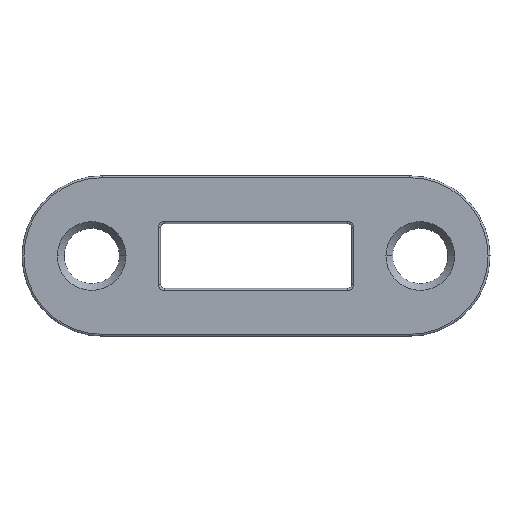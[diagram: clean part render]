
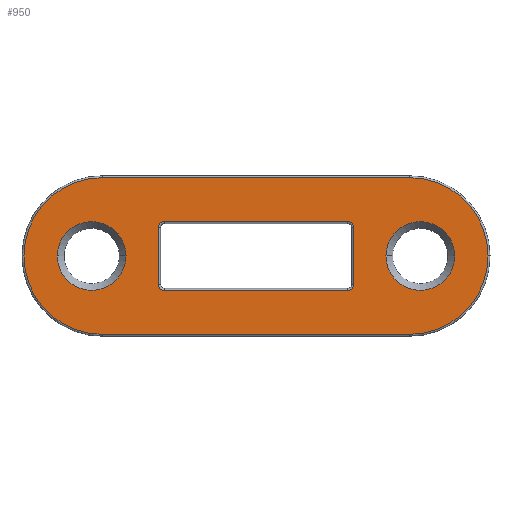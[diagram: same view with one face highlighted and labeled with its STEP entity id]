
A CAD part, top view. The second image highlights one B-rep face of the part: STEP entity #950.
In plain terms, the highlighted planar face has unit normal (0, 0, 1).
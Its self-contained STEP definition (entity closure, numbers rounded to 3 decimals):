
#14 = CARTESIAN_POINT ( 'NONE',  ( 3.119, 10.5, 2. ) ) ;
#20 = EDGE_CURVE ( 'NONE', #353, #801, #155, .T. ) ;
#33 = CARTESIAN_POINT ( 'NONE',  ( 50.5, 10.5, 2. ) ) ;
#34 = ORIENTED_EDGE ( 'NONE', *, *, #460, .T. ) ;
#40 = CARTESIAN_POINT ( 'NONE',  ( 0., 20.75, 2. ) ) ;
#44 = AXIS2_PLACEMENT_3D ( 'NONE', #68, #314, #233 ) ;
#53 = CARTESIAN_POINT ( 'NONE',  ( 40.25, 20.75, 2. ) ) ;
#67 = VERTEX_POINT ( 'NONE', #14 ) ;
#68 = CARTESIAN_POINT ( 'NONE',  ( -1.376, 10.5, 2. ) ) ;
#70 = DIRECTION ( 'NONE',  ( 0., 0., -1. ) ) ;
#82 = VERTEX_POINT ( 'NONE', #509 ) ;
#84 = FACE_OUTER_BOUND ( 'NONE', #689, .T. ) ;
#89 = VECTOR ( 'NONE', #315, 1000. ) ;
#94 = ORIENTED_EDGE ( 'NONE', *, *, #1041, .T. ) ;
#95 = CARTESIAN_POINT ( 'NONE',  ( 41.624, 10.5, 2. ) ) ;
#96 = VECTOR ( 'NONE', #786, 1000. ) ;
#119 = VERTEX_POINT ( 'NONE', #424 ) ;
#122 = VERTEX_POINT ( 'NONE', #439 ) ;
#128 = CARTESIAN_POINT ( 'NONE',  ( 37.128, 10.5, 2. ) ) ;
#142 = CARTESIAN_POINT ( 'NONE',  ( 40.25, 10.5, 2. ) ) ;
#155 = CIRCLE ( 'NONE', #827, 10.25 ) ;
#161 = LINE ( 'NONE', #501, #515 ) ;
#166 = FACE_BOUND ( 'NONE', #914, .T. ) ;
#169 = FACE_BOUND ( 'NONE', #367, .T. ) ;
#174 = VERTEX_POINT ( 'NONE', #776 ) ;
#192 = AXIS2_PLACEMENT_3D ( 'NONE', #832, #991, #1003 ) ;
#194 = CARTESIAN_POINT ( 'NONE',  ( 40.25, 0.25, 2. ) ) ;
#201 = LINE ( 'NONE', #879, #748 ) ;
#212 = ORIENTED_EDGE ( 'NONE', *, *, #391, .T. ) ;
#214 = DIRECTION ( 'NONE',  ( 1., 0., 0. ) ) ;
#233 = DIRECTION ( 'NONE',  ( 1., 0., 0. ) ) ;
#235 = DIRECTION ( 'NONE',  ( 1., 0., 0. ) ) ;
#240 = CARTESIAN_POINT ( 'NONE',  ( 32.13, 14.25, 2. ) ) ;
#252 = VERTEX_POINT ( 'NONE', #40 ) ;
#258 = DIRECTION ( 'NONE',  ( 0., 0., 1. ) ) ;
#265 = DIRECTION ( 'NONE',  ( 1., 0., 0. ) ) ;
#290 = CARTESIAN_POINT ( 'NONE',  ( 8.13, 6.75, 2. ) ) ;
#291 = DIRECTION ( 'NONE',  ( -1., 0., 0. ) ) ;
#307 = EDGE_LOOP ( 'NONE', ( #747, #1011 ) ) ;
#313 = ORIENTED_EDGE ( 'NONE', *, *, #20, .T. ) ;
#314 = DIRECTION ( 'NONE',  ( 0., 0., 1. ) ) ;
#315 = DIRECTION ( 'NONE',  ( 0., -1., 0. ) ) ;
#316 = DIRECTION ( 'NONE',  ( 0., 0., 1. ) ) ;
#321 = VECTOR ( 'NONE', #291, 1000. ) ;
#343 = CARTESIAN_POINT ( 'NONE',  ( -5.872, 10.5, 2. ) ) ;
#346 = CIRCLE ( 'NONE', #812, 10.25 ) ;
#353 = VERTEX_POINT ( 'NONE', #33 ) ;
#363 = DIRECTION ( 'NONE',  ( 0., 0., -1. ) ) ;
#367 = EDGE_LOOP ( 'NONE', ( #1024, #212, #34, #861, #94, #771, #606, #403 ) ) ;
#376 = CIRCLE ( 'NONE', #1001, 0.75 ) ;
#391 = EDGE_CURVE ( 'NONE', #122, #119, #568, .T. ) ;
#393 = CIRCLE ( 'NONE', #464, 4.496 ) ;
#400 = VERTEX_POINT ( 'NONE', #739 ) ;
#403 = ORIENTED_EDGE ( 'NONE', *, *, #752, .T. ) ;
#406 = CARTESIAN_POINT ( 'NONE',  ( 7.38, 6.75, 2. ) ) ;
#408 = ORIENTED_EDGE ( 'NONE', *, *, #475, .T. ) ;
#424 = CARTESIAN_POINT ( 'NONE',  ( 32.88, 6.75, 2. ) ) ;
#428 = CARTESIAN_POINT ( 'NONE',  ( 0., 10.5, 2. ) ) ;
#439 = CARTESIAN_POINT ( 'NONE',  ( 32.88, 14.25, 2. ) ) ;
#460 = EDGE_CURVE ( 'NONE', #119, #557, #866, .T. ) ;
#462 = AXIS2_PLACEMENT_3D ( 'NONE', #721, #905, #820 ) ;
#464 = AXIS2_PLACEMENT_3D ( 'NONE', #627, #1031, #536 ) ;
#468 = EDGE_CURVE ( 'NONE', #67, #976, #559, .T. ) ;
#470 = CARTESIAN_POINT ( 'NONE',  ( 40.25, 10.5, 2. ) ) ;
#475 = EDGE_CURVE ( 'NONE', #777, #353, #346, .T. ) ;
#495 = ORIENTED_EDGE ( 'NONE', *, *, #787, .T. ) ;
#501 = CARTESIAN_POINT ( 'NONE',  ( 7.38, 14.25, 2. ) ) ;
#509 = CARTESIAN_POINT ( 'NONE',  ( 8.13, 6., 2. ) ) ;
#515 = VECTOR ( 'NONE', #1014, 1000. ) ;
#536 = DIRECTION ( 'NONE',  ( 1., 0., 0. ) ) ;
#541 = DIRECTION ( 'NONE',  ( 1., 0., 0. ) ) ;
#542 = DIRECTION ( 'NONE',  ( 1., 0., 0. ) ) ;
#556 = DIRECTION ( 'NONE',  ( 0., 0., 1. ) ) ;
#557 = VERTEX_POINT ( 'NONE', #762 ) ;
#559 = CIRCLE ( 'NONE', #192, 4.496 ) ;
#568 = LINE ( 'NONE', #984, #89 ) ;
#572 = ORIENTED_EDGE ( 'NONE', *, *, #903, .F. ) ;
#573 = CARTESIAN_POINT ( 'NONE',  ( 46.119, 10.5, 2. ) ) ;
#577 = ORIENTED_EDGE ( 'NONE', *, *, #897, .T. ) ;
#580 = DIRECTION ( 'NONE',  ( 1., 0., 0. ) ) ;
#599 = ORIENTED_EDGE ( 'NONE', *, *, #468, .F. ) ;
#606 = ORIENTED_EDGE ( 'NONE', *, *, #772, .T. ) ;
#617 = LINE ( 'NONE', #888, #321 ) ;
#621 = EDGE_CURVE ( 'NONE', #962, #174, #161, .T. ) ;
#627 = CARTESIAN_POINT ( 'NONE',  ( 41.624, 10.5, 2. ) ) ;
#634 = EDGE_CURVE ( 'NONE', #1074, #122, #891, .T. ) ;
#646 = CIRCLE ( 'NONE', #877, 4.496 ) ;
#647 = DIRECTION ( 'NONE',  ( -1., 0., 0. ) ) ;
#661 = CARTESIAN_POINT ( 'NONE',  ( 32.13, 6.75, 2. ) ) ;
#685 = PLANE ( 'NONE',  #1038 ) ;
#689 = EDGE_LOOP ( 'NONE', ( #728, #408, #313, #577, #495 ) ) ;
#695 = CARTESIAN_POINT ( 'NONE',  ( 32.13, 15., 2. ) ) ;
#696 = VERTEX_POINT ( 'NONE', #128 ) ;
#698 = EDGE_CURVE ( 'NONE', #400, #777, #781, .T. ) ;
#705 = EDGE_CURVE ( 'NONE', #557, #82, #617, .T. ) ;
#721 = CARTESIAN_POINT ( 'NONE',  ( 0., 10.5, 2. ) ) ;
#724 = AXIS2_PLACEMENT_3D ( 'NONE', #661, #70, #214 ) ;
#728 = ORIENTED_EDGE ( 'NONE', *, *, #698, .T. ) ;
#739 = CARTESIAN_POINT ( 'NONE',  ( 0., 0.25, 2. ) ) ;
#747 = ORIENTED_EDGE ( 'NONE', *, *, #943, .F. ) ;
#748 = VECTOR ( 'NONE', #265, 1000. ) ;
#752 = EDGE_CURVE ( 'NONE', #921, #1074, #201, .T. ) ;
#758 = DIRECTION ( 'NONE',  ( 0., 0., -1. ) ) ;
#762 = CARTESIAN_POINT ( 'NONE',  ( 32.13, 6., 2. ) ) ;
#771 = ORIENTED_EDGE ( 'NONE', *, *, #621, .T. ) ;
#772 = EDGE_CURVE ( 'NONE', #174, #921, #999, .T. ) ;
#776 = CARTESIAN_POINT ( 'NONE',  ( 7.38, 14.25, 2. ) ) ;
#777 = VERTEX_POINT ( 'NONE', #883 ) ;
#781 = LINE ( 'NONE', #194, #96 ) ;
#786 = DIRECTION ( 'NONE',  ( 1., 0., 0. ) ) ;
#787 = EDGE_CURVE ( 'NONE', #252, #400, #944, .T. ) ;
#796 = VERTEX_POINT ( 'NONE', #573 ) ;
#801 = VERTEX_POINT ( 'NONE', #53 ) ;
#803 = CIRCLE ( 'NONE', #44, 4.496 ) ;
#805 = AXIS2_PLACEMENT_3D ( 'NONE', #1040, #1050, #542 ) ;
#809 = CARTESIAN_POINT ( 'NONE',  ( 8.13, 15., 2. ) ) ;
#812 = AXIS2_PLACEMENT_3D ( 'NONE', #470, #556, #821 ) ;
#820 = DIRECTION ( 'NONE',  ( 1., 0., 0. ) ) ;
#821 = DIRECTION ( 'NONE',  ( 1., 0., 0. ) ) ;
#827 = AXIS2_PLACEMENT_3D ( 'NONE', #142, #316, #235 ) ;
#832 = CARTESIAN_POINT ( 'NONE',  ( -1.376, 10.5, 2. ) ) ;
#861 = ORIENTED_EDGE ( 'NONE', *, *, #705, .T. ) ;
#866 = CIRCLE ( 'NONE', #724, 0.75 ) ;
#877 = AXIS2_PLACEMENT_3D ( 'NONE', #95, #258, #926 ) ;
#879 = CARTESIAN_POINT ( 'NONE',  ( 32.13, 15., 2. ) ) ;
#883 = CARTESIAN_POINT ( 'NONE',  ( 40.25, 0.25, 2. ) ) ;
#888 = CARTESIAN_POINT ( 'NONE',  ( 8.13, 6., 2. ) ) ;
#891 = CIRCLE ( 'NONE', #1004, 0.75 ) ;
#897 = EDGE_CURVE ( 'NONE', #801, #252, #995, .T. ) ;
#903 = EDGE_CURVE ( 'NONE', #976, #67, #803, .T. ) ;
#905 = DIRECTION ( 'NONE',  ( 0., 0., 1. ) ) ;
#914 = EDGE_LOOP ( 'NONE', ( #599, #572 ) ) ;
#921 = VERTEX_POINT ( 'NONE', #809 ) ;
#926 = DIRECTION ( 'NONE',  ( 1., 0., 0. ) ) ;
#930 = DIRECTION ( 'NONE',  ( 1., 0., 0. ) ) ;
#943 = EDGE_CURVE ( 'NONE', #796, #696, #646, .T. ) ;
#944 = CIRCLE ( 'NONE', #462, 10.25 ) ;
#950 = ADVANCED_FACE ( 'NONE', ( #169, #166, #1027, #84 ), #685, .T. ) ;
#962 = VERTEX_POINT ( 'NONE', #406 ) ;
#976 = VERTEX_POINT ( 'NONE', #343 ) ;
#984 = CARTESIAN_POINT ( 'NONE',  ( 32.88, 6.75, 2. ) ) ;
#991 = DIRECTION ( 'NONE',  ( 0., 0., 1. ) ) ;
#995 = LINE ( 'NONE', #1080, #1052 ) ;
#999 = CIRCLE ( 'NONE', #805, 0.75 ) ;
#1001 = AXIS2_PLACEMENT_3D ( 'NONE', #290, #363, #541 ) ;
#1003 = DIRECTION ( 'NONE',  ( 1., 0., 0. ) ) ;
#1004 = AXIS2_PLACEMENT_3D ( 'NONE', #240, #758, #580 ) ;
#1011 = ORIENTED_EDGE ( 'NONE', *, *, #1092, .F. ) ;
#1014 = DIRECTION ( 'NONE',  ( 0., 1., 0. ) ) ;
#1018 = DIRECTION ( 'NONE',  ( 0., 0., 1. ) ) ;
#1024 = ORIENTED_EDGE ( 'NONE', *, *, #634, .T. ) ;
#1027 = FACE_BOUND ( 'NONE', #307, .T. ) ;
#1031 = DIRECTION ( 'NONE',  ( 0., 0., 1. ) ) ;
#1038 = AXIS2_PLACEMENT_3D ( 'NONE', #428, #1018, #930 ) ;
#1040 = CARTESIAN_POINT ( 'NONE',  ( 8.13, 14.25, 2. ) ) ;
#1041 = EDGE_CURVE ( 'NONE', #82, #962, #376, .T. ) ;
#1050 = DIRECTION ( 'NONE',  ( 0., 0., -1. ) ) ;
#1052 = VECTOR ( 'NONE', #647, 1000. ) ;
#1074 = VERTEX_POINT ( 'NONE', #695 ) ;
#1080 = CARTESIAN_POINT ( 'NONE',  ( 0., 20.75, 2. ) ) ;
#1092 = EDGE_CURVE ( 'NONE', #696, #796, #393, .T. ) ;
